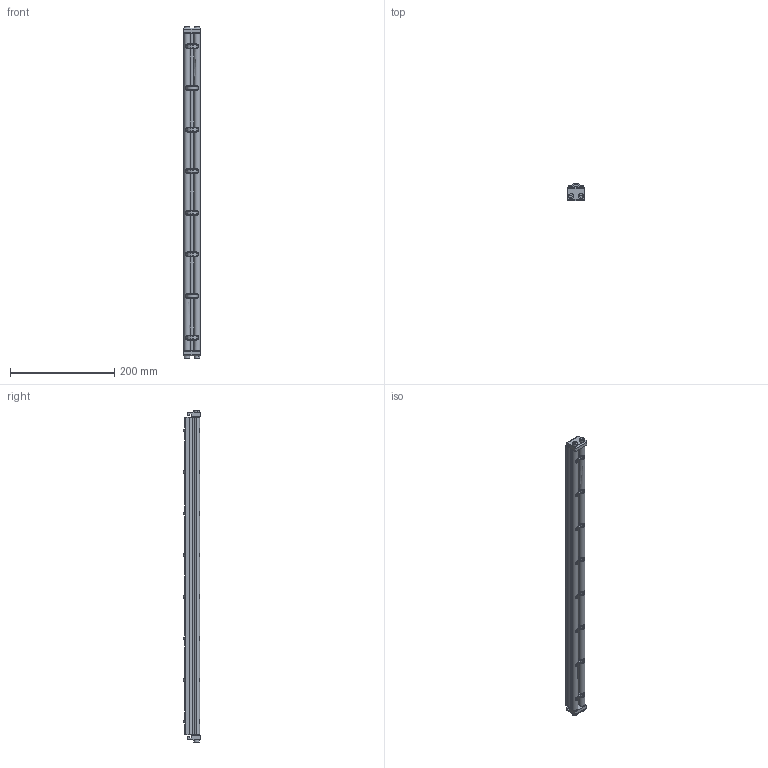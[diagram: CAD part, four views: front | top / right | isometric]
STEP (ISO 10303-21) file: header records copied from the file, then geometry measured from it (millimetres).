
FILE_DESCRIPTION((''),'2;1');
FILE_NAME('324924_ASM','2023-03-14T',('jenni.wallner'),(''),'PRO/ENGINEER BY PARAMETRIC TECHNOLOGY CORPORATION, 2012420','PRO/ENGINEER BY PARAMETRIC TECHNOLOGY CORPORATION, 2012420','');
FILE_SCHEMA(('CONFIG_CONTROL_DESIGN'));
Length unit declared in the file: inch
Products named in the file (7): 240826; X920693M; 240827_CAE; 2410WW_CAE_241024; 2436WW_243624; ASM0001_ASM; 324924_ASM
Assembly tree (17 placements, depth 3):
  324924_ASM
    ASM0001_ASM
      240826  x8
      X920693M  x4
      240827_CAE  x2
      2410WW_CAE_241024
      2436WW_243624
Bounding box: 30.88 x 33.34 x 637.01 mm (x, y, z)
Volume: 302560.1 mm3; surface area: 180712 mm2
Topology: 16 solids, 16 shells, 524 faces, 1472 edges, 972 vertices
Faces by surface type: cylinder 238, plane 186, cone 68, torus 32
Entity records: 12843 total; most frequent: CARTESIAN_POINT 3387, ORIENTED_EDGE 2064, DIRECTION 1920, EDGE_CURVE 1032, AXIS2_PLACEMENT_3D 718, VERTEX_POINT 688, VECTOR 484, LINE 484
